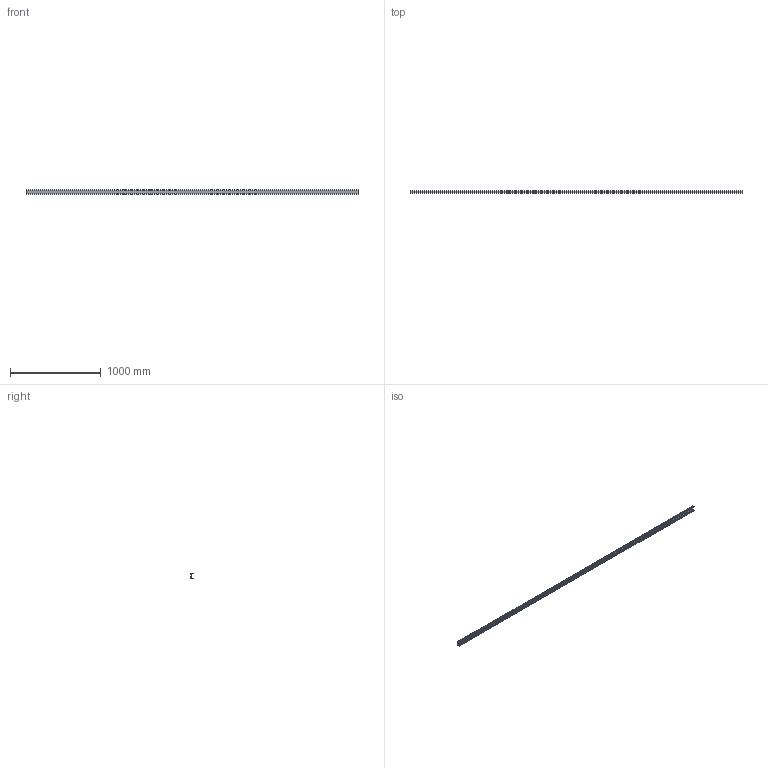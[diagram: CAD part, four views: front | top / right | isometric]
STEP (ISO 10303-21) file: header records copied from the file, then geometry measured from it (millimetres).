
FILE_DESCRIPTION( ( '' ), '1' );
FILE_NAME( 'C:/Documents and Settings/Nikhil/Desktop/Nik/Done/9995910.stp', '2013-10-23T08:24:26', ( '' ), ( '' ), ' ', ' ', ' ' );
FILE_SCHEMA( ( 'automotive_design' ) );
Length unit declared in the file: millimetre
Products named in the file (1): 1
Bounding box: 3660 x 25 x 52 mm (x, y, z)
Volume: 1105788.4 mm3; surface area: 825914.8 mm2
Topology: 1 solids, 1 shells, 32 faces, 90 edges, 60 vertices
Faces by surface type: plane 24, cylinder 8
Entity records: 2060 total; most frequent: STYLED_ITEM 183, PRESENTATION_STYLE_ASSIGNMENT 183, CARTESIAN_POINT 183, COLOUR_RGB 183, ORIENTED_EDGE 180, DIRECTION 172, EDGE_CURVE 90, CURVE_STYLE 90
